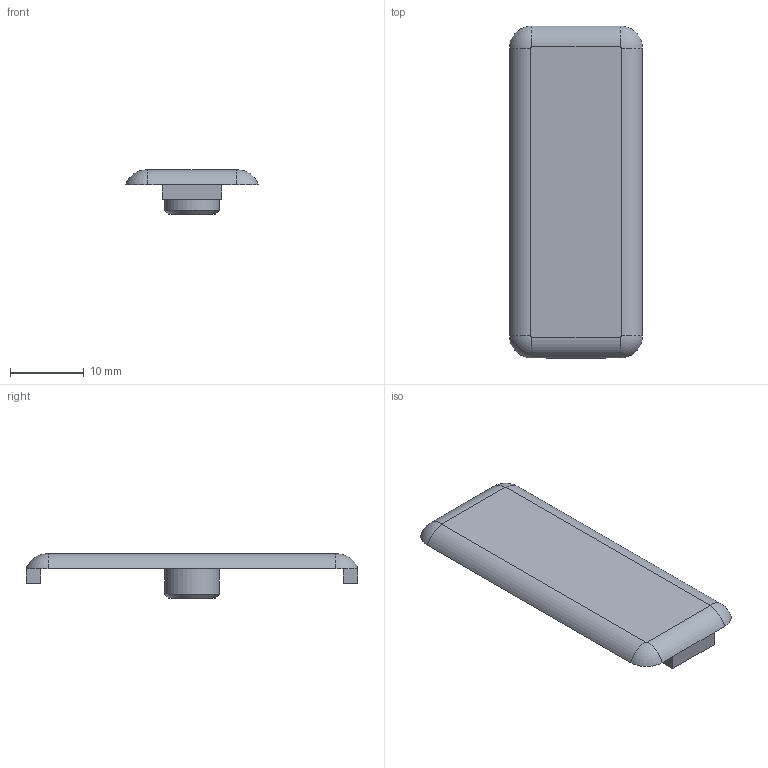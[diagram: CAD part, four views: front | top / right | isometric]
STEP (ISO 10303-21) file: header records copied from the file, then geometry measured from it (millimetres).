
FILE_DESCRIPTION (( 'STEP AP214' ), '1' );
FILE_NAME ('SL01002.step', '2024-12-03T16:29:58', ( '' ), ( '' ), 'SwSTEP 2.0', 'SolidWorks 2023', '' );
FILE_SCHEMA (( 'AUTOMOTIVE_DESIGN' ));
Length unit declared in the file: millimetre
Products named in the file (1): SL01002
Bounding box: 18 x 45 x 6 mm (x, y, z)
Volume: 1568 mm3; surface area: 1941.1 mm2
Topology: 1 solids, 1 shells, 25 faces, 59 edges, 38 vertices
Faces by surface type: plane 14, cylinder 6, torus 4, cone 1
Full cylindrical faces by diameter (mm): 5.45 x1, 7.45 x1
Entity records: 721 total; most frequent: DIRECTION 128, CARTESIAN_POINT 118, ORIENTED_EDGE 110, EDGE_CURVE 55, AXIS2_PLACEMENT_3D 47, VERTEX_POINT 37, LINE 34, VECTOR 34
